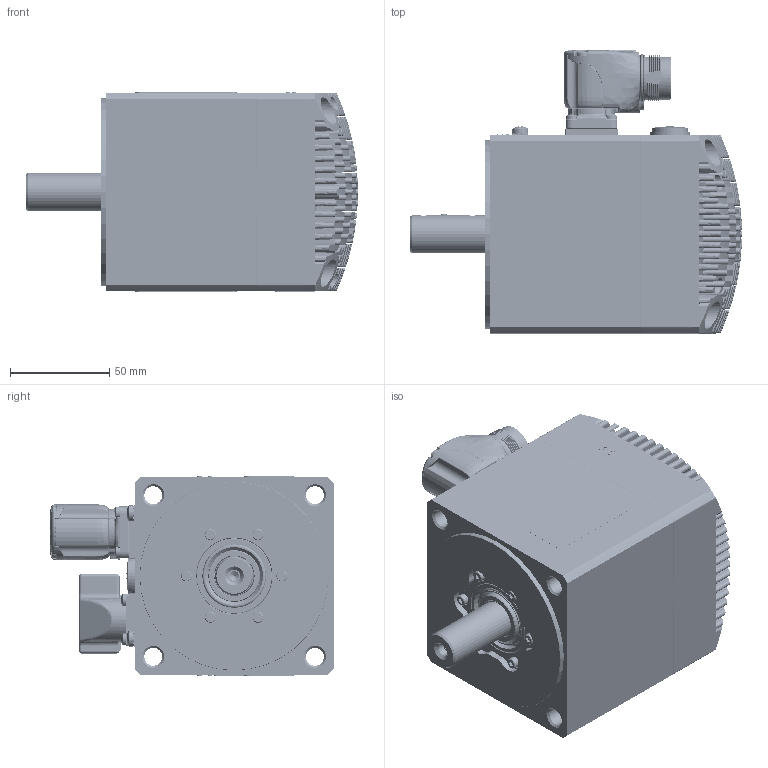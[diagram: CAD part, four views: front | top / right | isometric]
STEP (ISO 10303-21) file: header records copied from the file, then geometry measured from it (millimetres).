
FILE_DESCRIPTION((''),'2;1');
FILE_NAME('32190015646_ASM','2022-04-13T09:02:53',('gabrielec'),(''),'CREO PARAMETRIC BY PTC INC, 2021304','CREO PARAMETRIC BY PTC INC, 2021304','');
FILE_SCHEMA(('AP242_MANAGED_MODEL_BASED_3D_ENGINEERING_MIM_LF { 1 0 10303 442 1 1 4 }'));
Products named in the file (36): 50992N-0; 32149915563_ASM; 22320015066; 50938N-0; 22320015066_ASM; 32050015010_ASM; 32060015505_ASM; 51941N-1; 32090015022_ASM; NRG_001; M3X16_GBT70-1; GB_T862_1; M4X8_GBT818_CU; 32159915173_ASM; 22160015160; MENTOR-1292_9013; CEMBRE_FD9; CEMBRE_2053M16N; 32150015177_ASM; UNI7687_M3X8_INOX; CAN_OPEN; 33200203857_ASM; 31500203857_AF1_ASM; 50941N-0; UNI7687_M3X6_INOX; UNI5931_M3X6_INOX; 22210015021; 32150015175_ASM; UNI5931_M4X16; LIP_SEAL_TW05; 22250015024; 22250015126; 43500000229; 43500000050; PHOENIX_1605512; 32190015646_ASM
Assembly tree (63 placements, depth 7):
  32190015646_ASM
    32159915173_ASM
      32149915563_ASM
        50992N-0
      32090015022_ASM
        32060015505_ASM
          32050015010_ASM
            22320015066_ASM
              22320015066
              50938N-0
        51941N-1
      NRG_001  x6
      M3X16_GBT70-1  x6
      GB_T862_1  x2
      M4X8_GBT818_CU  x2
    32150015177_ASM
      22160015160
      MENTOR-1292_9013  x8
      CEMBRE_FD9
      CEMBRE_2053M16N
    UNI7687_M3X8_INOX  x4
    31500203857_AF1_ASM
      33200203857_ASM
        CAN_OPEN
    50941N-0  x2
    UNI7687_M3X6_INOX  x3
    UNI5931_M3X6_INOX
    32150015175_ASM
      22210015021
    UNI5931_M4X16  x4
    LIP_SEAL_TW05
    22250015024
    22250015126
    43500000229
    43500000050
    PHOENIX_1605512
Bounding box: 167 x 142.41 x 100.8 mm (x, y, z)
Volume: 499693.9 mm3; surface area: 252190.7 mm2
Topology: 73 solids, 100 shells, 4360 faces, 10963 edges, 6940 vertices
Faces by surface type: plane 1462, cylinder 1038, cone 647, bspline 596, torus 352, sphere 243, revolution 11, extrusion 11
Entity records: 188539 total; most frequent: CARTESIAN_POINT 66420, ORIENTED_EDGE 19230, DIRECTION 17298, PRESENTATION_STYLE_ASSIGNMENT 9897, EDGE_CURVE 9670, STYLED_ITEM 9667, CURVE_STYLE 9596, AXIS2_PLACEMENT_3D 6751
